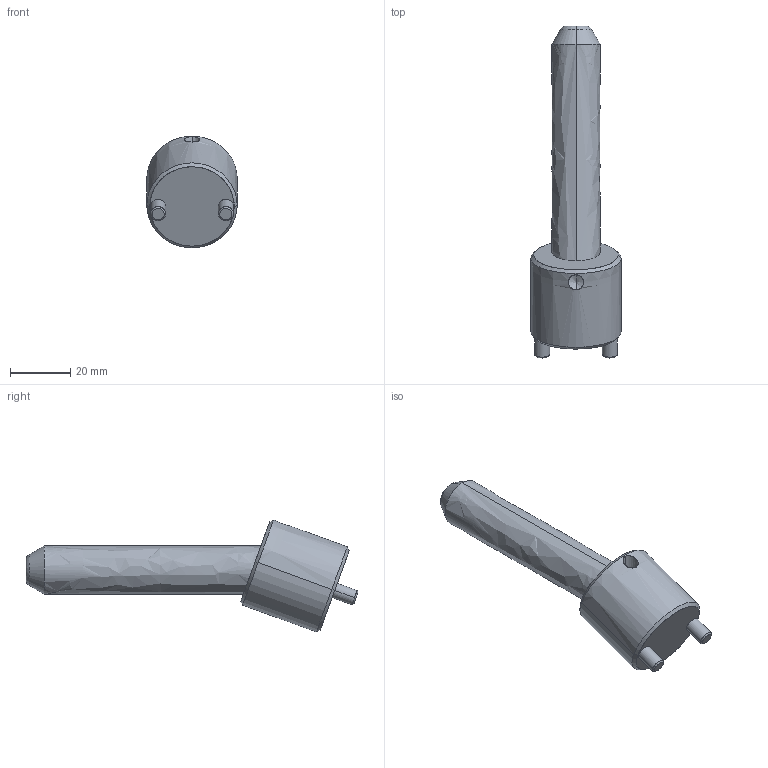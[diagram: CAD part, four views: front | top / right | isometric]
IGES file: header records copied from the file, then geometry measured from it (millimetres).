
Start section: START RECORD GO HERE.
Global section: file name: CI2016075.igs; native system: DASSAULT SYSTEMES CATIA V5 R20 - www.3ds.com; preprocessor: CATIA Version 5 Release 20 ; author: r.borello; organization: CFTORINO; date: 20190624.084000; units: millimetre
Bounding box: 30 x 110.07 x 37.08 mm (x, y, z)
Surface area: 10692.4 mm2 (no closed solid volume)
Topology: 0 solids, 0 shells, 39 faces, 162 edges, 160 vertices
Faces by surface type: revolution 32, plane 7
